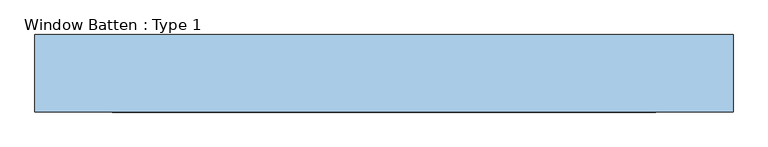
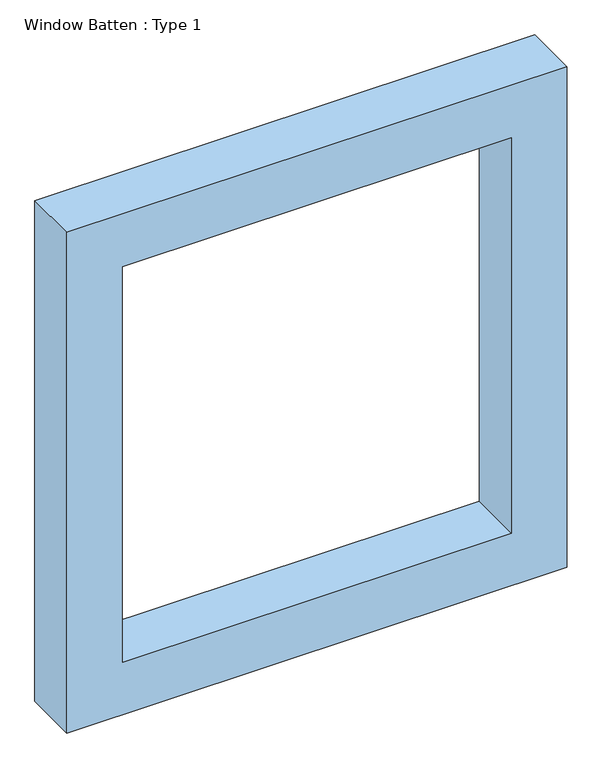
"""IFC4 building model written with IfcOpenShell, lengths in millimetres: window geometry, Window Batten : Type 1."""

from ifc_helpers import new_model, si_unit, frame, origin, place, context, project, spatial, polyline, outline, extrude, source, transform, mapped, element, save


def window_batten_type_1_00c4e306(model_context):
    return source(origin(), model_context, "Body", "SweptSolid", [
        extrude(outline(polyline([(2708.8484214, -775.5827642), (803.5434075, -775.5827642), (803.5434075, 1025.5827642), (2708.8484214, 1025.5827642), (2708.8484214, -775.5827642)]), holes=[polyline([(2508.8484214, -575.5827642), (2508.8484214, 825.5827642), (1003.5434075, 825.5827642), (1003.5434075, -575.5827642), (2508.8484214, -575.5827642)])]), frame((0.0, -310.0, 0.0), z_axis=(0.0, 1.0, 0.0), x_axis=(0.0, 0.0, 1.0)), (0.0, 0.0, 1.0), 200.0),
    ])


if __name__ == "__main__":
    model = new_model("IFC4")
    model_context = context("Model", 3, world=origin())
    ifc_project = project(units=[si_unit("LENGTHUNIT", "METRE", prefix="MILLI")], contexts=[model_context])
    site = spatial("IfcSite", under=ifc_project)
    building = spatial("IfcBuilding", under=site)
    placement = place(None, origin())
    window_batten_type_1_shape = window_batten_type_1_00c4e306(model_context)
    element("IfcWindow", 1, ObjectType="Window Batten : Type 1", at=placement, inside=building, context=model_context, shape_type="MappedRepresentation", body=[
        mapped(window_batten_type_1_shape, transform((0.0, 0.0, 0.0), x_axis=(1.0, 0.0, 0.0), y_axis=(0.0, 1.0, 0.0), z_axis=(0.0, 0.0, 1.0))),
    ])
    save(model, "model.ifc")
